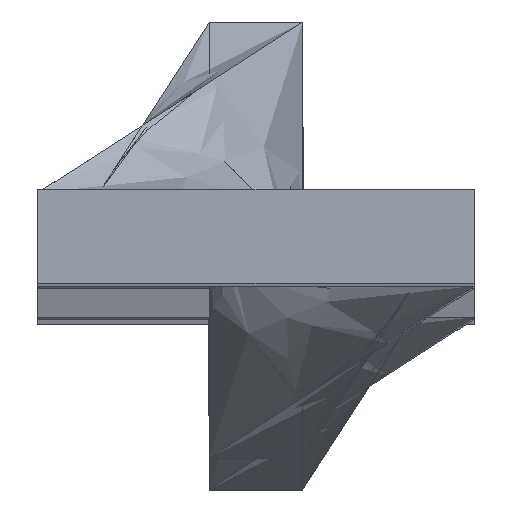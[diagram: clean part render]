
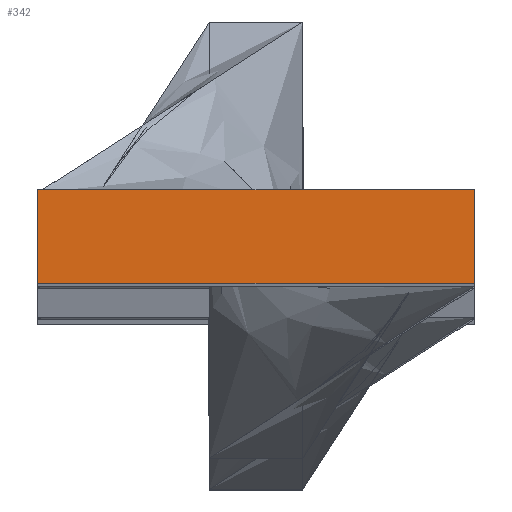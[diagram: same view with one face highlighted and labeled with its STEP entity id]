
A CAD part, top view. The second image highlights one B-rep face of the part: STEP entity #342.
In plain terms, the highlighted planar face has unit normal (0, 0, 1).
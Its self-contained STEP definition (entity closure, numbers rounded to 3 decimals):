
#300 = EDGE_CURVE ( 'NONE', #372, #324, #1113, .T. ) ;
#324 = VERTEX_POINT ( 'NONE', #980 ) ;
#338 = EDGE_LOOP ( 'NONE', ( #344, #341, #343, #347 ) ) ;
#339 = EDGE_CURVE ( 'NONE', #353, #372, #1033, .T. ) ;
#341 = ORIENTED_EDGE ( 'NONE', *, *, #365, .T. ) ;
#342 = ADVANCED_FACE ( 'NONE', ( #992 ), #1030, .T. ) ;
#343 = ORIENTED_EDGE ( 'NONE', *, *, #363, .T. ) ;
#344 = ORIENTED_EDGE ( 'NONE', *, *, #300, .T. ) ;
#347 = ORIENTED_EDGE ( 'NONE', *, *, #339, .T. ) ;
#353 = VERTEX_POINT ( 'NONE', #1080 ) ;
#359 = VERTEX_POINT ( 'NONE', #1079 ) ;
#363 = EDGE_CURVE ( 'NONE', #359, #353, #1097, .T. ) ;
#365 = EDGE_CURVE ( 'NONE', #324, #359, #1098, .T. ) ;
#372 = VERTEX_POINT ( 'NONE', #1129 ) ;
#980 = CARTESIAN_POINT ( 'NONE',  ( 0., 0., 758.5 ) ) ;
#992 = FACE_OUTER_BOUND ( 'NONE', #338, .T. ) ;
#1024 = AXIS2_PLACEMENT_3D ( 'NONE', #1078, #1077, #1076 ) ;
#1025 = DIRECTION ( 'NONE',  ( -1., 0., 0. ) ) ;
#1026 = VECTOR ( 'NONE', #1025, 1000. ) ;
#1030 = PLANE ( 'NONE',  #1024 ) ;
#1032 = CARTESIAN_POINT ( 'NONE',  ( 0., 3., 758.5 ) ) ;
#1033 = LINE ( 'NONE', #1032, #1026 ) ;
#1076 = DIRECTION ( 'NONE',  ( 1., 0., 0. ) ) ;
#1077 = DIRECTION ( 'NONE',  ( 0., 0., 1. ) ) ;
#1078 = CARTESIAN_POINT ( 'NONE',  ( 0., 0., 758.5 ) ) ;
#1079 = CARTESIAN_POINT ( 'NONE',  ( 14., 0., 758.5 ) ) ;
#1080 = CARTESIAN_POINT ( 'NONE',  ( 14., 3., 758.5 ) ) ;
#1088 = DIRECTION ( 'NONE',  ( 1., 0., 0. ) ) ;
#1089 = VECTOR ( 'NONE', #1088, 1000. ) ;
#1090 = CARTESIAN_POINT ( 'NONE',  ( 0., 0., 758.5 ) ) ;
#1092 = DIRECTION ( 'NONE',  ( 0., 1., 0. ) ) ;
#1093 = VECTOR ( 'NONE', #1092, 1000. ) ;
#1096 = CARTESIAN_POINT ( 'NONE',  ( 14., 3., 758.5 ) ) ;
#1097 = LINE ( 'NONE', #1096, #1093 ) ;
#1098 = LINE ( 'NONE', #1090, #1089 ) ;
#1110 = DIRECTION ( 'NONE',  ( 0., -1., 0. ) ) ;
#1111 = VECTOR ( 'NONE', #1110, 1000. ) ;
#1112 = CARTESIAN_POINT ( 'NONE',  ( 0., 3., 758.5 ) ) ;
#1113 = LINE ( 'NONE', #1112, #1111 ) ;
#1129 = CARTESIAN_POINT ( 'NONE',  ( 0., 3., 758.5 ) ) ;
